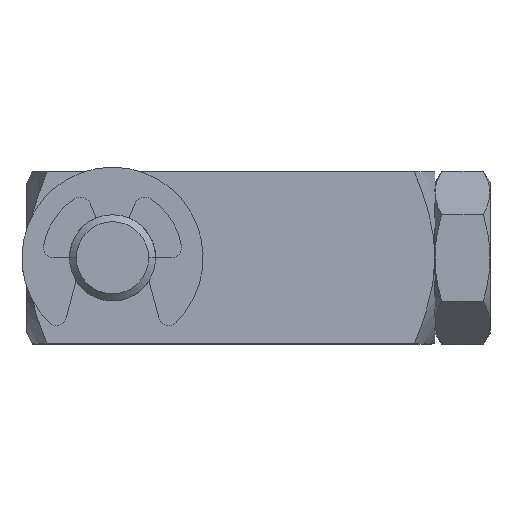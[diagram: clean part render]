
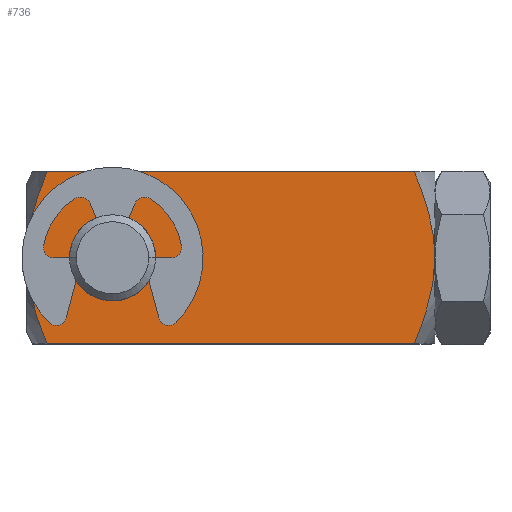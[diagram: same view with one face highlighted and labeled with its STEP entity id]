
A CAD part, top view. The second image highlights one B-rep face of the part: STEP entity #736.
In plain terms, the highlighted planar face has unit normal (0, 0, 1).
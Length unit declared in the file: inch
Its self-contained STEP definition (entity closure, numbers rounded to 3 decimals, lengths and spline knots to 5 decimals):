
#29=CARTESIAN_POINT('',(-1.12771,-0.25,0.25));
#36=DIRECTION('',(1.,0.,0.));
#37=VECTOR('',#36,1.06793);
#38=CARTESIAN_POINT('',(-1.12771,-0.25,0.25));
#39=LINE('',#38,#37);
#40=CARTESIAN_POINT('',(-0.05979,-0.25,0.25));
#163=CARTESIAN_POINT('',(-0.05979,0.25,0.25));
#165=DIRECTION('',(1.,0.,0.));
#166=VECTOR('',#165,1.06793);
#167=CARTESIAN_POINT('',(-1.12771,0.25,0.25));
#168=LINE('',#167,#166);
#174=CARTESIAN_POINT('',(-1.12771,0.25,0.25));
#272=CARTESIAN_POINT('',(-1.12771,0.25,0.25));
#273=CARTESIAN_POINT('',(-1.13395,0.23471,0.25));
#274=CARTESIAN_POINT('',(-1.14527,0.20556,0.25));
#275=CARTESIAN_POINT('',(-1.15868,0.16664,0.25));
#276=CARTESIAN_POINT('',(-1.16919,0.13106,0.25));
#277=CARTESIAN_POINT('',(-1.17726,0.09746,0.25));
#278=CARTESIAN_POINT('',(-1.1831,0.06478,0.25));
#279=CARTESIAN_POINT('',(-1.18669,0.03239,0.25));
#280=CARTESIAN_POINT('',(-1.1875,0.01079,0.25));
#281=CARTESIAN_POINT('',(-1.1875,0.,0.25));
#283=CARTESIAN_POINT('',(-0.05979,0.25,0.25));
#284=CARTESIAN_POINT('',(-0.05355,0.23471,0.25));
#285=CARTESIAN_POINT('',(-0.04223,0.20556,0.25));
#286=CARTESIAN_POINT('',(-0.02882,0.16664,0.25));
#287=CARTESIAN_POINT('',(-0.01831,0.13106,0.25));
#288=CARTESIAN_POINT('',(-0.01024,0.09746,0.25));
#289=CARTESIAN_POINT('',(-0.0044,0.06478,0.25));
#290=CARTESIAN_POINT('',(-0.00081,0.03239,0.25));
#291=CARTESIAN_POINT('',(0.,0.01079,0.25));
#292=CARTESIAN_POINT('',(0.,0.,0.25));
#294=CARTESIAN_POINT('',(0.,0.,0.25));
#295=CARTESIAN_POINT('',(0.,-0.01078,0.25));
#296=CARTESIAN_POINT('',(-0.00081,-0.03237,0.25));
#297=CARTESIAN_POINT('',(-0.00439,-0.06475,0.25));
#298=CARTESIAN_POINT('',(-0.01022,-0.09738,0.25));
#299=CARTESIAN_POINT('',(-0.01827,-0.13088,0.25));
#300=CARTESIAN_POINT('',(-0.0287,-0.16627,0.25));
#301=CARTESIAN_POINT('',(-0.04214,-0.20533,0.25));
#302=CARTESIAN_POINT('',(-0.05351,-0.23462,0.25));
#303=CARTESIAN_POINT('',(-0.05979,-0.25,0.25));
#305=CARTESIAN_POINT('',(-1.1875,0.,0.25));
#306=CARTESIAN_POINT('',(-1.1875,-0.01078,0.25));
#307=CARTESIAN_POINT('',(-1.18669,-0.03237,0.25));
#308=CARTESIAN_POINT('',(-1.18311,-0.06475,0.25));
#309=CARTESIAN_POINT('',(-1.17728,-0.09738,0.25));
#310=CARTESIAN_POINT('',(-1.16923,-0.13088,0.25));
#311=CARTESIAN_POINT('',(-1.1588,-0.16627,0.25));
#312=CARTESIAN_POINT('',(-1.14536,-0.20533,0.25));
#313=CARTESIAN_POINT('',(-1.13399,-0.23462,0.25));
#314=CARTESIAN_POINT('',(-1.12771,-0.25,0.25));
#316=CARTESIAN_POINT('',(-0.9375,0.,0.25));
#317=DIRECTION('',(0.,0.,-1.));
#318=DIRECTION('',(-1.,0.,0.));
#319=AXIS2_PLACEMENT_3D('',#316,#317,#318);
#321=CARTESIAN_POINT('',(-0.9375,0.,0.25));
#322=DIRECTION('',(0.,0.,-1.));
#323=DIRECTION('',(1.,0.,0.));
#324=AXIS2_PLACEMENT_3D('',#321,#322,#323);
#396=VERTEX_POINT('',#29);
#400=VERTEX_POINT('',#40);
#406=VERTEX_POINT('',#174);
#409=VERTEX_POINT('',#163);
#417=CARTESIAN_POINT('',(-1.1875,0.,0.25));
#418=VERTEX_POINT('',#417);
#419=VERTEX_POINT('',#292);
#432=CARTESIAN_POINT('',(-1.063,0.,0.25));
#433=CARTESIAN_POINT('',(-0.812,0.,0.25));
#434=VERTEX_POINT('',#432);
#435=VERTEX_POINT('',#433);
#717=CARTESIAN_POINT('',(-1.1875,-0.25,0.25));
#718=DIRECTION('',(0.,0.,1.));
#719=DIRECTION('',(1.,0.,0.));
#720=AXIS2_PLACEMENT_3D('',#717,#718,#719);
#721=PLANE('',#720);
#722=ORIENTED_EDGE('',*,*,#548,.F.);
#723=ORIENTED_EDGE('',*,*,#617,.T.);
#724=ORIENTED_EDGE('',*,*,#710,.T.);
#725=ORIENTED_EDGE('',*,*,#699,.T.);
#726=ORIENTED_EDGE('',*,*,#492,.F.);
#727=ORIENTED_EDGE('',*,*,#520,.F.);
#728=EDGE_LOOP('',(#722,#723,#724,#725,#726,#727));
#729=FACE_OUTER_BOUND('',#728,.F.);
#731=ORIENTED_EDGE('',*,*,#730,.F.);
#733=ORIENTED_EDGE('',*,*,#732,.F.);
#734=EDGE_LOOP('',(#731,#733));
#735=FACE_BOUND('',#734,.F.);
#736=ADVANCED_FACE('',(#729,#735),#721,.T.);
#282=B_SPLINE_CURVE_WITH_KNOTS('',3,(#272,#273,#274,#275,#276,#277,#278,#279,
#280,#281),.UNSPECIFIED.,.F.,.F.,(4,1,1,1,1,1,1,4),(0.,0.14286,
0.28571,0.42857,0.57143,0.71429,
0.85714,1.),.UNSPECIFIED.);
#293=B_SPLINE_CURVE_WITH_KNOTS('',3,(#283,#284,#285,#286,#287,#288,#289,#290,
#291,#292),.UNSPECIFIED.,.F.,.F.,(4,1,1,1,1,1,1,4),(0.,0.14286,
0.28571,0.42857,0.57143,0.71429,
0.85714,1.),.UNSPECIFIED.);
#304=B_SPLINE_CURVE_WITH_KNOTS('',3,(#294,#295,#296,#297,#298,#299,#300,#301,
#302,#303),.UNSPECIFIED.,.F.,.F.,(4,1,1,1,1,1,1,4),(0.,0.14286,
0.28571,0.42857,0.57143,0.71429,
0.85714,1.),.UNSPECIFIED.);
#315=B_SPLINE_CURVE_WITH_KNOTS('',3,(#305,#306,#307,#308,#309,#310,#311,#312,
#313,#314),.UNSPECIFIED.,.F.,.F.,(4,1,1,1,1,1,1,4),(0.,0.14286,
0.28571,0.42857,0.57143,0.71429,
0.85714,1.),.UNSPECIFIED.);
#320=CIRCLE('',#319,0.1255);
#325=CIRCLE('',#324,0.1255);
#492=EDGE_CURVE('',#396,#400,#39,.T.);
#520=EDGE_CURVE('',#418,#396,#315,.T.);
#548=EDGE_CURVE('',#406,#418,#282,.T.);
#617=EDGE_CURVE('',#406,#409,#168,.T.);
#699=EDGE_CURVE('',#419,#400,#304,.T.);
#710=EDGE_CURVE('',#409,#419,#293,.T.);
#730=EDGE_CURVE('',#434,#435,#320,.T.);
#732=EDGE_CURVE('',#435,#434,#325,.T.);
